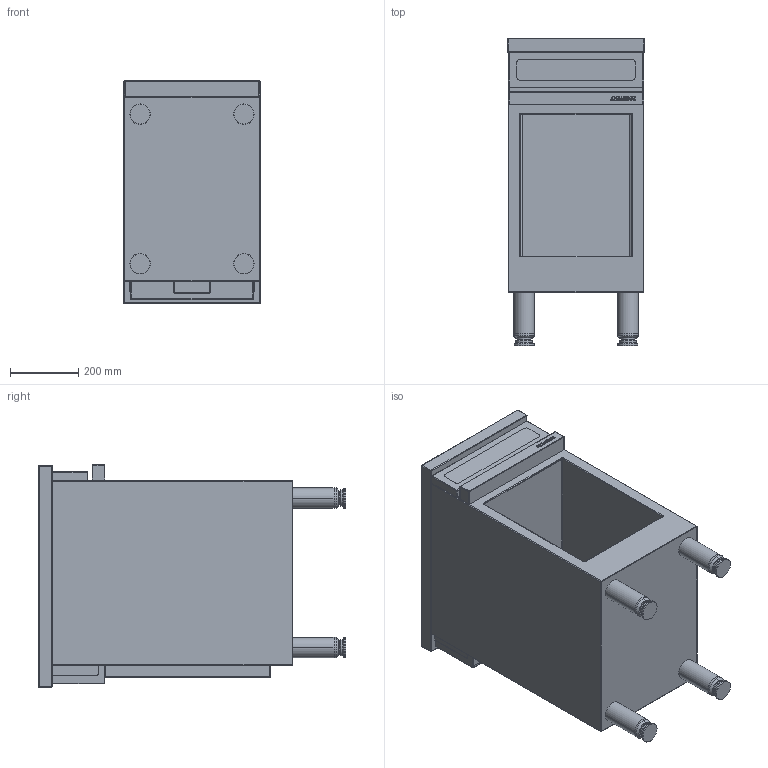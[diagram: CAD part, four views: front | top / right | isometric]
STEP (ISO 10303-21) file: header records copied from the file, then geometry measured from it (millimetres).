
FILE_DESCRIPTION((''),'2;1');
FILE_NAME('CME423IX_EXPORT_STEP_ASM','2017-11-22T',('r.avril'),(''),'PRO/ENGINEER BY PARAMETRIC TECHNOLOGY CORPORATION, 2014200','PRO/ENGINEER BY PARAMETRIC TECHNOLOGY CORPORATION, 2014200','');
FILE_SCHEMA(('AP203_CONFIGURATION_CONTROLLED_3D_DESIGN_OF_MECHANICAL_PARTS_AND_ASSEMBLIES_MIM_LF { 1 0 10303 403 2 1 2 }'));
Length unit declared in the file: millimetre
Products named in the file (5): MODULES_AMB_400_EXPORT_STEP; TABLE_423_IX; 65052008; TABLE_423_IX_ASM; CME423IX_EXPORT_STEP_ASM
Assembly tree (4 placements, depth 3):
  CME423IX_EXPORT_STEP_ASM
    MODULES_AMB_400_EXPORT_STEP
    TABLE_423_IX_ASM
      TABLE_423_IX
      65052008
Bounding box: 400 x 900 x 652.1 mm (x, y, z)
Volume: 56968583.6 mm3; surface area: 4269188.4 mm2
Topology: 9 solids, 28 shells, 315 faces, 1371 edges, 1376 vertices
Faces by surface type: cylinder 121, plane 114, sphere 36, torus 28, cone 16
Entity records: 17894 total; most frequent: CARTESIAN_POINT 4527, DIRECTION 2068, ORIENTED_EDGE 1696, EDGE_CURVE 1077, VERTEX_POINT 812, AXIS2_PLACEMENT_3D 702, VECTOR 649, LINE 649
